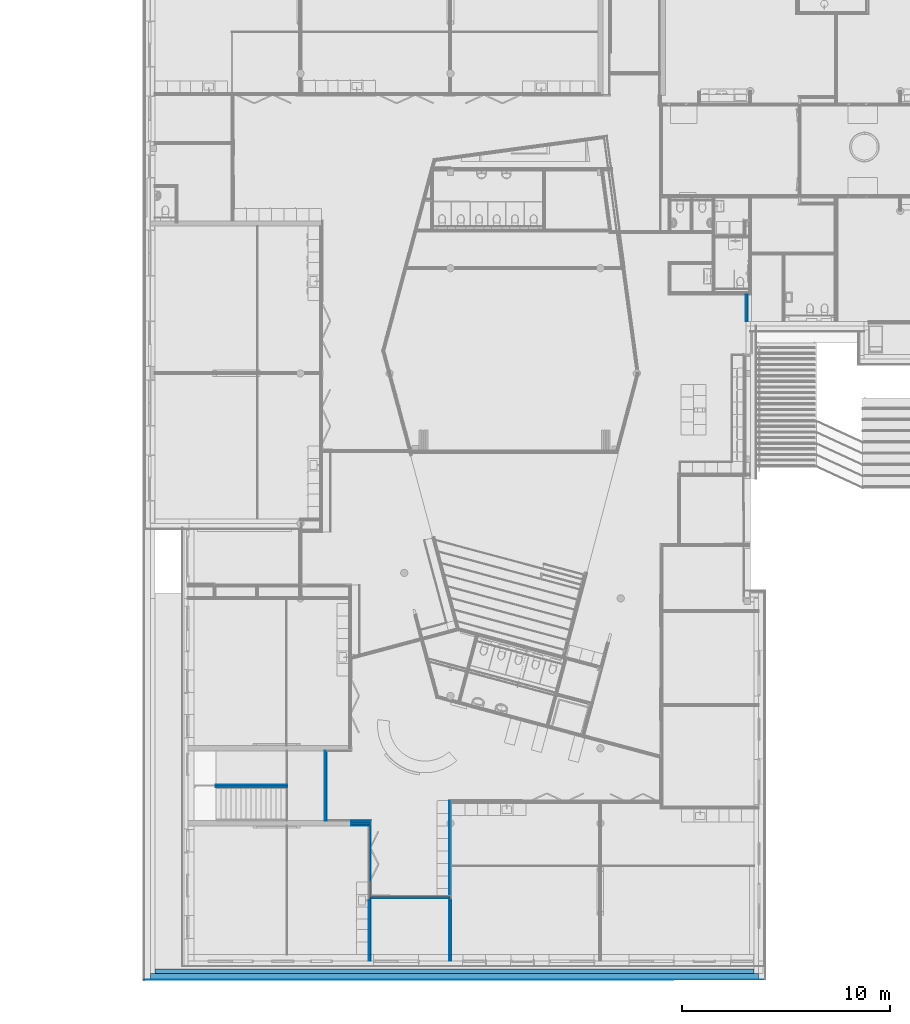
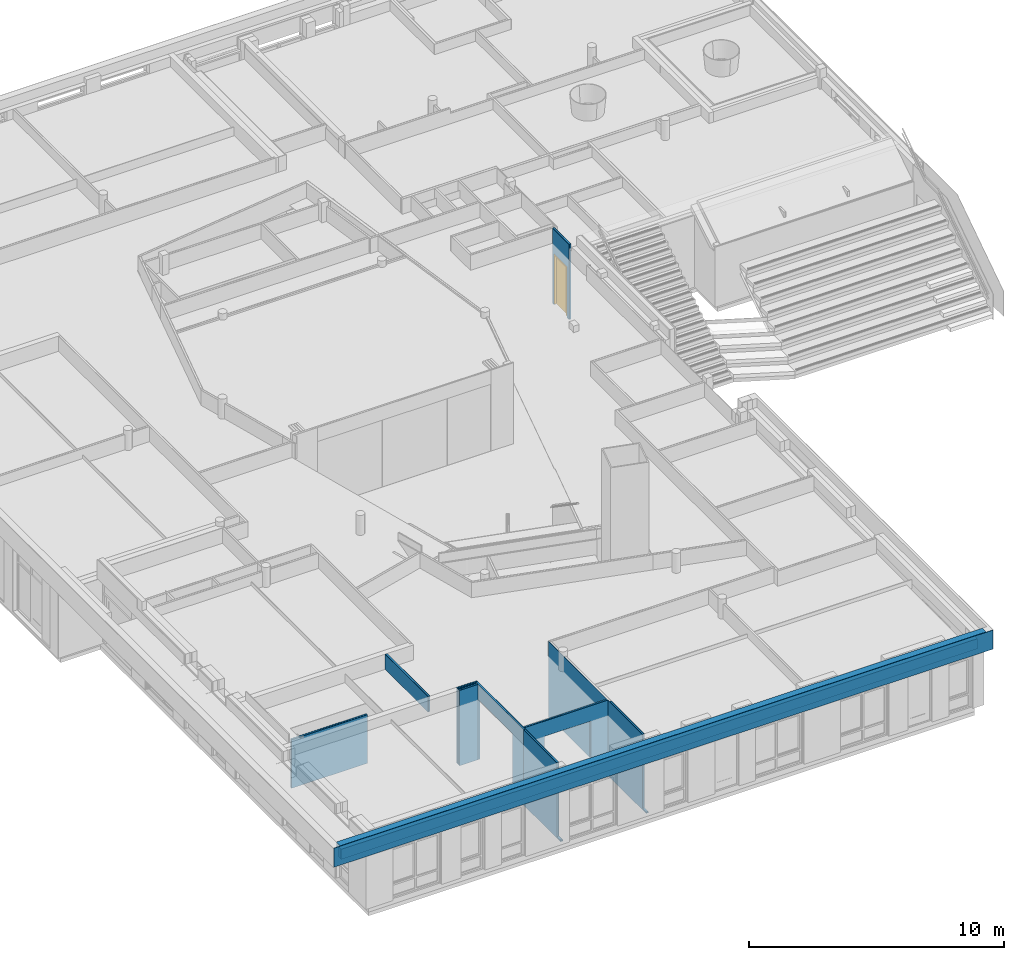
# One storey, part 4 of 167: 29 building element parts, 1 door, 5 openings, 11 elements without a shape of their own.
"""IFC2X3 building model written with IfcOpenShell, lengths in millimetres."""

from ifc_helpers import new_model, entity, si_unit, converted_unit, derived_unit, money_unit, direction, frame, origin_with_axes, place, context, subcontext, project, spatial, faceted_brep, source, transform, mapped, material, type_object, type_shapes, element, fill, aggregate, save


model = new_model("IFC2X3")

# Units and contexts
model_context = context("Model", 3, precision=0.01, world=origin_with_axes(), true_north=direction((0.0, 1.0)))
plan_context = context("Plan", 3, precision=0.01, world=origin_with_axes(), true_north=direction((0.0, 1.0)))
body_context = subcontext(model_context, "Body", "Model", "MODEL_VIEW")
ifc_project = project(units=[si_unit("LENGTHUNIT", "METRE", prefix="MILLI"), si_unit("AREAUNIT", "SQUARE_METRE"), si_unit("VOLUMEUNIT", "CUBIC_METRE"), converted_unit("PLANEANGLEUNIT", "DEGREE", entity("IfcPlaneAngleMeasure", 0.0174532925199), si_unit("PLANEANGLEUNIT", "RADIAN"), dimensions=[0, 0, 0, 0, 0, 0, 0]), si_unit("SOLIDANGLEUNIT", "STERADIAN"), money_unit("EUR"), converted_unit("TIMEUNIT", "Year", entity("IfcTimeMeasure", 31556926.0), si_unit("TIMEUNIT", "SECOND"), dimensions=[0, 0, 1, 0, 0, 0, 0]), si_unit("MASSUNIT", "GRAM", prefix="KILO"), si_unit("THERMODYNAMICTEMPERATUREUNIT", "DEGREE_CELSIUS"), si_unit("LUMINOUSINTENSITYUNIT", "LUMEN"), si_unit("ENERGYUNIT", "JOULE", prefix="MEGA"), derived_unit("THERMALCONDUCTANCEUNIT", [(si_unit("POWERUNIT", "WATT"), 1), (si_unit("LENGTHUNIT", "METRE"), -1), (si_unit("THERMODYNAMICTEMPERATUREUNIT", "KELVIN"), -1)]), derived_unit("SPECIFICHEATCAPACITYUNIT", [(si_unit("ENERGYUNIT", "JOULE"), 1), (si_unit("MASSUNIT", "GRAM", prefix="KILO"), -1), (si_unit("THERMODYNAMICTEMPERATUREUNIT", "KELVIN"), -1)]), derived_unit("MASSDENSITYUNIT", [(si_unit("MASSUNIT", "GRAM", prefix="KILO"), 1), (si_unit("VOLUMEUNIT", "CUBIC_METRE"), -1)])], contexts=[model_context, plan_context])

# Site, building, storey
site_placement = place(None, origin_with_axes())
site = spatial("IfcSite", under=ifc_project, at=site_placement, Name="Site", CompositionType="ELEMENT")
building_placement = place(site_placement, origin_with_axes())
building = spatial("IfcBuilding", under=site, at=building_placement, Name="Naam gebouw", CompositionType="ELEMENT")
storey_placement = place(building_placement, origin_with_axes())
storey = spatial("IfcBuildingStorey", under=building, at=storey_placement, Name="Begane grond", CompositionType="ELEMENT", Elevation=0.0)

# Door
door_style = type_object("IfcDoorStyle", Name="D1 24", ConstructionType="NOTDEFINED", OperationType="SINGLE_SWING_RIGHT", ParameterTakesPrecedence=False, Sizeable=False)
shared_shape = source(origin_with_axes(), body_context, "Body", "Brep", [
    faceted_brep([(-450.0, -40.0, 0.0), (-450.0, -40.0, 2300.0), (-450.0, -114.0, 2300.0), (-450.0, -114.0, 0.0), (-475.0, -40.0, 2300.0), (-475.0, -40.0, 0.0), (-475.0, 0.0, 2300.0), (-517.0, 0.0, 2300.0), (-517.0, -114.0, 2300.0), (-517.0, -114.0, 0.0), (-517.0, 0.0, 0.0), (-475.0, 0.0, 0.0)], [[[0, 1, 2, 3]], [[4, 1, 0, 5]], [[4, 6, 7, 8, 2, 1]], [[3, 2, 8, 9]], [[5, 0, 3, 9, 10, 11]], [[6, 4, 5, 11]], [[6, 11, 10, 7]], [[10, 9, 8, 7]]]),
    faceted_brep([(475.0, -40.0, 2300.0), (450.0, -40.0, 2300.0), (450.0, -114.0, 2300.0), (517.0, -114.0, 2300.0), (517.0, 0.0, 2300.0), (475.0, 0.0, 2300.0), (475.0, -40.0, 0.0), (450.0, -40.0, 0.0), (450.0, -114.0, 0.0), (517.0, -114.0, 0.0), (517.0, 0.0, 0.0), (475.0, 0.0, 0.0)], [[[0, 1, 2, 3, 4, 5]], [[1, 0, 6, 7]], [[1, 7, 8, 2]], [[3, 2, 8, 9]], [[4, 3, 9, 10]], [[11, 5, 4, 10]], [[0, 5, 11, 6]], [[6, 11, 10, 9, 8, 7]]]),
    faceted_brep([(-475.0, 0.0, 2325.0), (-475.0, 0.0, 2300.0), (-517.0, 0.0, 2300.0), (-517.0, 0.0, 2367.0), (517.0, 0.0, 2367.0), (517.0, 0.0, 2300.0), (475.0, 0.0, 2300.0), (475.0, 0.0, 2325.0), (-475.0, -40.0, 2325.0), (-475.0, -40.0, 2300.0), (-450.0, -40.0, 2300.0), (-450.0, -114.0, 2300.0), (-517.0, -114.0, 2300.0), (-517.0, -114.0, 2367.0), (517.0, -114.0, 2367.0), (517.0, -114.0, 2300.0), (475.0, -40.0, 2300.0), (450.0, -114.0, 2300.0), (450.0, -40.0, 2300.0), (475.0, -40.0, 2325.0)], [[[0, 1, 2, 3, 4, 5, 6, 7]], [[1, 0, 8, 9]], [[9, 10, 11, 12, 2, 1]], [[2, 12, 13, 3]], [[3, 13, 14, 4]], [[4, 14, 15, 5]], [[16, 6, 5, 15, 17, 18]], [[7, 6, 16, 19]], [[0, 7, 19, 8]], [[16, 18, 10, 9, 8, 19]], [[10, 18, 17, 11]], [[17, 15, 14, 13, 12, 11]]]),
    faceted_brep([(475.0, 0.0, 0.0), (475.0, -40.0, 0.0), (-475.0, -40.0, 0.0), (-475.0, 0.0, 0.0), (475.0, 0.0, 2325.0), (475.0, -40.0, 2325.0), (-475.0, -40.0, 2325.0), (-475.0, 0.0, 2325.0)], [[[0, 1, 2, 3]], [[4, 5, 1, 0]], [[1, 5, 6, 2]], [[3, 2, 6, 7]], [[0, 3, 7, 4]], [[7, 6, 5, 4]]]),
])
type_shapes(door_style, [shared_shape])
wall_11_placement = place(storey_placement, frame((28636.0, 32636.3528663, -100.0), z_axis=(0.0, 0.0, 1.0), x_axis=(0.0, -1.0, 0.0)))
opening_5_placement = place(wall_11_placement, frame((669.353092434, 0.0, 100.0), z_axis=(0.0, 0.0, 1.0), x_axis=(1.0, 0.0, 0.0)))
door_placement = place(opening_5_placement, frame((-517.0, 0.0, 0.0), z_axis=(0.0, 0.0, 1.0), x_axis=(1.0, 0.0, 0.0)))
door = element("IfcDoor", 1, at=door_placement, inside=storey, type_object=door_style, Name="32_Deur_Hi-01s", ObjectType="DOOR", OverallHeight=2367.0, OverallWidth=1034.0, context=body_context, shape_type="MappedRepresentation", body=[
    mapped(shared_shape, transform((517.0, 64.0, 0.0))),
])

# Wall, building element parts
wall_type_1 = type_object("IfcWallType", Name="_TenW_22_Metalstud 100 enkel gipsvezelplaat 100", PredefinedType="NOTDEFINED")
wall_1_placement = place(storey_placement, frame((14400.0, 600.0, -100.0), z_axis=(0.0, 0.0, 1.0), x_axis=(0.0, 1.0, 0.0)))
wall_1 = element("IfcWall", 2, at=wall_1_placement, inside=storey, type_object=wall_type_1, Name="22_Wand_Wand-x")
ifc_material_1 = material(Name="Gipsplaat watervast")
building_element_part_1_placement = place(wall_1_placement, origin_with_axes())
building_element_part_1 = element("IfcBuildingElementPart", 3, at=building_element_part_1_placement, material=ifc_material_1, Name="Gipsplaat watervast", context=body_context, shape_type="Brep", body=[
    faceted_brep([(0.0, 37.5, 30.0), (3012.5, 37.5, 30.0), (3012.5, 37.5, 3629.99999759), (300.0, 37.5, 3629.99999752), (300.0, 37.5, 100.0), (0.0, 37.5, 100.0), (3012.5, 50.0, 30.0), (0.0, 50.0, 30.0), (3012.5, 50.0, 3629.99999759), (300.0, 50.0, 3629.99999752), (300.0, 50.0, 100.0), (0.0, 50.0, 100.0)], [[[0, 1, 2, 3, 4, 5]], [[6, 1, 0, 7]], [[1, 6, 8, 2]], [[8, 9, 3, 2]], [[4, 3, 9, 10]], [[11, 5, 4, 10]], [[7, 0, 5, 11]], [[6, 7, 11, 10, 9, 8]]]),
])
ifc_material_2 = material(Name="Isolatie - Steenwol zacht")
building_element_part_2_placement = place(wall_1_placement, origin_with_axes())
building_element_part_2 = element("IfcBuildingElementPart", 4, at=building_element_part_2_placement, material=ifc_material_2, Name="Isolatie - Steenwol zacht", context=body_context, shape_type="Brep", body=[
    faceted_brep([(0.0, -37.5, 30.0), (2900.0, -37.5, 30.0), (2900.0, -37.5, 3629.99999752), (300.0, -37.5, 3629.99999752), (300.0, -37.5, 100.0), (0.0, -37.5, 100.0), (2900.0, 37.5, 30.0), (0.0, 37.5, 30.0), (2900.0, 37.5, 3629.99999752), (300.0, 37.5, 3629.99999752), (300.0, 37.5, 100.0), (0.0, 37.5, 100.0)], [[[0, 1, 2, 3, 4, 5]], [[6, 1, 0, 7]], [[1, 6, 8, 2]], [[8, 9, 3, 2]], [[4, 3, 9, 10]], [[11, 5, 4, 10]], [[7, 0, 5, 11]], [[6, 7, 11, 10, 9, 8]]]),
])
building_element_part_3_placement = place(wall_1_placement, origin_with_axes())
building_element_part_3 = element("IfcBuildingElementPart", 5, at=building_element_part_3_placement, material=ifc_material_1, Name="Gipsplaat watervast", context=body_context, shape_type="Brep", body=[
    faceted_brep([(0.0, -50.0, 30.0), (2900.0, -50.0, 30.0), (2900.0, -50.0, 3629.99999752), (300.0, -50.0, 3629.99999752), (300.0, -50.0, 100.0), (0.0, -50.0, 100.0), (2900.0, -37.5, 30.0), (0.0, -37.5, 30.0), (2900.0, -37.5, 3629.99999752), (300.0, -37.5, 3629.99999752), (300.0, -37.5, 100.0), (0.0, -37.5, 100.0)], [[[0, 1, 2, 3, 4, 5]], [[6, 1, 0, 7]], [[1, 6, 8, 2]], [[8, 9, 3, 2]], [[4, 3, 9, 10]], [[11, 5, 4, 10]], [[7, 0, 5, 11]], [[6, 7, 11, 10, 9, 8]]]),
])
aggregate(wall_1, [building_element_part_1, building_element_part_2, building_element_part_3])

wall_2_placement = place(storey_placement, frame((10531.8272344, 600.0, -100.0), z_axis=(0.0, 0.0, 1.0), x_axis=(0.0, 1.0, 0.0)))
wall_2 = element("IfcWall", 6, at=wall_2_placement, inside=storey, type_object=wall_type_1, Name="22_Wand_Wand-x")
building_element_part_4_placement = place(wall_2_placement, origin_with_axes())
building_element_part_4 = element("IfcBuildingElementPart", 7, at=building_element_part_4_placement, material=ifc_material_1, Name="Gipsplaat watervast", context=body_context, shape_type="Brep", body=[
    faceted_brep([(0.0, 37.5, 30.0), (2900.0, 37.5, 30.0), (2900.0, 37.5, 3629.99999709), (300.0, 37.5, 3629.99999709), (300.0, 37.5, 100.0), (0.0, 37.5, 100.0), (2900.0, 50.0, 30.0), (0.0, 50.0, 30.0), (2900.0, 50.0, 3629.99999709), (300.0, 50.0, 3629.99999709), (300.0, 50.0, 100.0), (0.0, 50.0, 100.0)], [[[0, 1, 2, 3, 4, 5]], [[6, 1, 0, 7]], [[1, 6, 8, 2]], [[8, 9, 3, 2]], [[4, 3, 9, 10]], [[11, 5, 4, 10]], [[7, 0, 5, 11]], [[6, 7, 11, 10, 9, 8]]]),
])
building_element_part_5_placement = place(wall_2_placement, origin_with_axes())
building_element_part_5 = element("IfcBuildingElementPart", 8, at=building_element_part_5_placement, material=ifc_material_2, Name="Isolatie - Steenwol zacht", context=body_context, shape_type="Brep", body=[
    faceted_brep([(0.0, -37.5, 30.0), (2900.0, -37.5, 30.0), (2900.0, -37.5, 3629.99999709), (300.0, -37.5, 3629.99999709), (300.0, -37.5, 100.0), (0.0, -37.5, 100.0), (2900.0, 37.5, 30.0), (0.0, 37.5, 30.0), (2900.0, 37.5, 3629.99999709), (300.0, 37.5, 3629.99999709), (300.0, 37.5, 100.0), (0.0, 37.5, 100.0)], [[[0, 1, 2, 3, 4, 5]], [[6, 1, 0, 7]], [[1, 6, 8, 2]], [[8, 9, 3, 2]], [[4, 3, 9, 10]], [[11, 5, 4, 10]], [[7, 0, 5, 11]], [[6, 7, 11, 10, 9, 8]]]),
])
building_element_part_6_placement = place(wall_2_placement, origin_with_axes())
building_element_part_6 = element("IfcBuildingElementPart", 9, at=building_element_part_6_placement, material=ifc_material_1, Name="Gipsplaat watervast", context=body_context, shape_type="Brep", body=[
    faceted_brep([(0.0, -50.0, 30.0), (3012.5, -50.0, 30.0), (3012.5, -50.0, 3629.99999718), (300.0, -50.0, 3629.99999709), (300.0, -50.0, 100.0), (0.0, -50.0, 100.0), (3012.5, -37.5, 30.0), (0.0, -37.5, 30.0), (3012.5, -37.5, 3629.99999718), (300.0, -37.5, 3629.99999709), (300.0, -37.5, 100.0), (0.0, -37.5, 100.0)], [[[0, 1, 2, 3, 4, 5]], [[6, 1, 0, 7]], [[1, 6, 8, 2]], [[8, 9, 3, 2]], [[4, 3, 9, 10]], [[11, 5, 4, 10]], [[7, 0, 5, 11]], [[6, 7, 11, 10, 9, 8]]]),
])
aggregate(wall_2, [building_element_part_4, building_element_part_5, building_element_part_6])

wall_type_2 = type_object("IfcWallType", Name="_TenW_21_E-BOARD_V1_standaard 538", PredefinedType="NOTDEFINED")
wall_3_placement = place(storey_placement, frame((0.0, 0.0, 3050.0), z_axis=(0.0, 0.0, 1.0), x_axis=(1.0, 0.0, 0.0)))
wall_3 = element("IfcWall", 10, at=wall_3_placement, inside=storey, type_object=wall_type_2, Name="21_Wand_Wand-x")
ifc_material_3 = material(Name="Steen - Kalkzandsteen C")
building_element_part_7_placement = place(wall_3_placement, origin_with_axes())
building_element_part_7 = element("IfcBuildingElementPart", 11, at=building_element_part_7_placement, material=ifc_material_3, Name="Steen - Kalkzandsteen C", context=body_context, shape_type="Brep", body=[
    faceted_brep([(214.0, 214.0, 480.0), (28986.0, 214.0, 480.0), (28986.0, 214.0, 0.0), (214.0, 214.0, 0.0), (28986.0, 0.0, 480.0), (214.0, 0.0, 480.0), (28986.0, 0.0, 0.0), (214.0, 0.0, 0.0)], [[[0, 1, 2, 3]], [[4, 1, 0, 5]], [[1, 4, 6, 2]], [[6, 7, 3, 2]], [[5, 0, 3, 7]], [[4, 5, 7, 6]]]),
])
building_element_part_8_placement = place(wall_3_placement, origin_with_axes())
building_element_part_8 = element("IfcBuildingElementPart", 12, at=building_element_part_8_placement, material=ifc_material_2, Name="Isolatie - Steenwol zacht", context=body_context, shape_type="Brep", body=[
    faceted_brep([(29200.0, 0.0, 0.0), (0.0, 0.0, 0.0), (0.0, 0.0, 910.0), (29200.0, 0.0, 910.0), (29200.0, -304.0, 0.0), (0.0, -304.0, 0.0), (0.0, -304.0, 910.0), (29200.0, -304.0, 910.0)], [[[0, 1, 2, 3]], [[4, 5, 1, 0]], [[5, 6, 2, 1]], [[3, 2, 6, 7]], [[4, 0, 3, 7]], [[7, 6, 5, 4]]]),
])
ifc_material_4 = material(Name="_TenW_21_Steen - Baksteen")
building_element_part_9_placement = place(wall_3_placement, origin_with_axes())
building_element_part_9 = element("IfcBuildingElementPart", 13, at=building_element_part_9_placement, material=ifc_material_4, Name="_TenW_21_Steen - Baksteen", context=body_context, shape_type="Brep", body=[
    faceted_brep([(-304.0, -304.0, 0.0), (-304.0, -304.0, 910.0), (29504.0, -304.0, 910.0), (29504.0, -304.0, 0.0), (-304.0, -324.0, 910.0), (-304.0, -324.0, 0.0), (29504.0, -324.0, 910.0), (29504.0, -324.0, 0.0)], [[[0, 1, 2, 3]], [[4, 1, 0, 5]], [[1, 4, 6, 2]], [[3, 2, 6, 7]], [[5, 0, 3, 7]], [[4, 5, 7, 6]]]),
])
aggregate(wall_3, [building_element_part_7, building_element_part_8, building_element_part_9])

# Wall, opening, building element parts
wall_4_placement = place(storey_placement, frame((10531.8272344, 3650.0, -100.0), z_axis=(0.0, 0.0, 1.0), x_axis=(1.0, 0.0, 0.0)))
wall_4 = element("IfcWall", 14, at=wall_4_placement, inside=storey, type_object=wall_type_1, Name="22_Wand_Wand-x")
opening_1_placement = place(wall_4_placement, frame((2000.0, 0.0, 100.0), z_axis=(0.0, 0.0, 1.0), x_axis=(1.0, 0.0, 0.0)))
element("IfcOpeningElement", 15, at=opening_1_placement, cuts=wall_4, Name="32_Deur_Hi-52s", context=body_context, shape_type="Brep", body=[
    faceted_brep([(-1050.0, -100.0, 0.0), (-1050.0, -100.0, 2800.0), (-1050.0, 200.0, 2800.0), (-1050.0, 200.0, 0.0), (1050.0, -100.0, 0.0), (1050.0, -100.0, 2800.0), (1050.0, 200.0, 2800.0), (1050.0, 200.0, 0.0)], [[[0, 1, 2, 3]], [[0, 4, 5, 1]], [[1, 5, 6, 2]], [[3, 2, 6, 7]], [[4, 0, 3, 7]], [[5, 4, 7, 6]]]),
])
building_element_part_10_placement = place(wall_4_placement, origin_with_axes())
building_element_part_10 = element("IfcBuildingElementPart", 16, at=building_element_part_10_placement, material=ifc_material_2, Name="Isolatie - Steenwol zacht", context=body_context, shape_type="Brep", body=[
    faceted_brep([(950.0, 37.5, 2900.0), (950.0, 37.5, 100.0), (950.0, 37.5, 30.0), (37.5, 37.5, 30.0), (37.5, 37.5, 3629.99999674), (3830.67276555, 37.5, 3629.99999674), (3830.67276555, 37.5, 30.0), (3050.0, 37.5, 30.0), (3050.0, 37.5, 100.0), (3050.0, 37.5, 2900.0), (950.0, -37.5, 2900.0), (950.0, -37.5, 100.0), (950.0, -37.5, 30.0), (37.5, -37.5, 30.0), (37.5, -37.5, 3629.99999674), (3830.67276555, -37.5, 3629.99999674), (3830.67276555, -37.5, 30.0), (3050.0, -37.5, 30.0), (3050.0, -37.5, 100.0), (3050.0, -37.5, 2900.0)], [[[0, 1, 2, 3, 4, 5, 6, 7, 8, 9]], [[1, 0, 10, 11]], [[1, 11, 12, 2]], [[12, 13, 3, 2]], [[13, 14, 4, 3]], [[15, 5, 4, 14]], [[6, 5, 15, 16]], [[7, 6, 16, 17]], [[18, 8, 7, 17]], [[9, 8, 18, 19]], [[0, 9, 19, 10]], [[19, 18, 17, 16, 15, 14, 13, 12, 11, 10]]]),
])
building_element_part_11_placement = place(wall_4_placement, origin_with_axes())
building_element_part_11 = element("IfcBuildingElementPart", 17, at=building_element_part_11_placement, material=ifc_material_1, Name="Gipsplaat watervast", context=body_context, shape_type="Brep", body=[
    faceted_brep([(950.0, -37.5, 2900.0), (950.0, -37.5, 100.0), (950.0, -37.5, 30.0), (50.0, -37.5, 30.0), (50.0, -37.5, 3629.99999674), (3818.17276555, -37.5, 3629.99999674), (3818.17276555, -37.5, 30.0), (3050.0, -37.5, 30.0), (3050.0, -37.5, 100.0), (3050.0, -37.5, 2900.0), (950.0, -50.0, 2900.0), (950.0, -50.0, 100.0), (950.0, -50.0, 30.0), (50.0, -50.0, 30.0), (50.0, -50.0, 3629.99999674), (3818.17276555, -50.0, 3629.99999674), (3818.17276555, -50.0, 30.0), (3050.0, -50.0, 30.0), (3050.0, -50.0, 100.0), (3050.0, -50.0, 2900.0)], [[[0, 1, 2, 3, 4, 5, 6, 7, 8, 9]], [[1, 0, 10, 11]], [[1, 11, 12, 2]], [[12, 13, 3, 2]], [[13, 14, 4, 3]], [[15, 5, 4, 14]], [[6, 5, 15, 16]], [[7, 6, 16, 17]], [[18, 8, 7, 17]], [[9, 8, 18, 19]], [[0, 9, 19, 10]], [[19, 18, 17, 16, 15, 14, 13, 12, 11, 10]]]),
])
aggregate(wall_4, [building_element_part_10, building_element_part_11])

wall_5_placement = place(storey_placement, frame((1800.0, 8991.1374755, 2.0), z_axis=(0.0, 0.0, 1.0), x_axis=(1.0, 0.0, 0.0)))
wall_5 = element("IfcWall", 18, at=wall_5_placement, inside=storey, type_object=wall_type_1, Name="22_Wand_Wand-x")
opening_2_placement = place(wall_5_placement, frame((817.0, 0.0, -2.0), z_axis=(0.0, 0.0, 1.0), x_axis=(1.0, 0.0, 0.0)))
element("IfcOpeningElement", 19, at=opening_2_placement, cuts=wall_5, Name="32_Deur_Hi-01s", context=body_context, shape_type="Brep", body=[
    faceted_brep([(517.0, -100.0, 2367.0), (517.0, -100.0, 0.0), (517.0, 200.0, 0.0), (517.0, 200.0, 2367.0), (-517.0, -100.0, 2367.0), (-517.0, -100.0, 0.0), (-517.0, 200.0, 0.0), (-517.0, 200.0, 2367.0)], [[[0, 1, 2, 3]], [[0, 4, 5, 1]], [[1, 5, 6, 2]], [[3, 2, 6, 7]], [[4, 0, 3, 7]], [[5, 4, 7, 6]]]),
])
building_element_part_12_placement = place(wall_5_placement, origin_with_axes())
building_element_part_12 = element("IfcBuildingElementPart", 20, at=building_element_part_12_placement, material=ifc_material_1, Name="Gipsplaat watervast", context=body_context, shape_type="Brep", body=[
    faceted_brep([(1334.0, 50.0, 0.0), (1334.0, 50.0, 2318.0), (4760.33313693, 50.0, 2318.0), (4760.33313693, 50.0, 0.0), (1334.0, 37.5, 2318.0), (1334.0, 37.5, 0.0), (4760.33313693, 37.5, 2318.0), (4760.33313693, 37.5, 0.0)], [[[0, 1, 2, 3]], [[4, 1, 0, 5]], [[1, 4, 6, 2]], [[7, 3, 2, 6]], [[5, 0, 3, 7]], [[4, 5, 7, 6]]]),
])
building_element_part_13_placement = place(wall_5_placement, origin_with_axes())
building_element_part_13 = element("IfcBuildingElementPart", 21, at=building_element_part_13_placement, material=ifc_material_2, Name="Isolatie - Steenwol zacht", context=body_context, shape_type="Brep", body=[
    faceted_brep([(1334.0, 37.5, 0.0), (1334.0, 37.5, 2318.0), (4760.33313693, 37.5, 2318.0), (4760.33313693, 37.5, 0.0), (1334.0, -37.5, 2318.0), (1334.0, -37.5, 0.0), (4760.33313693, -37.5, 2318.0), (4760.33313693, -37.5, 0.0)], [[[0, 1, 2, 3]], [[4, 1, 0, 5]], [[1, 4, 6, 2]], [[7, 3, 2, 6]], [[5, 0, 3, 7]], [[4, 5, 7, 6]]]),
])
building_element_part_14_placement = place(wall_5_placement, origin_with_axes())
building_element_part_14 = element("IfcBuildingElementPart", 22, at=building_element_part_14_placement, material=ifc_material_1, Name="Gipsplaat watervast", context=body_context, shape_type="Brep", body=[
    faceted_brep([(1334.0, -37.5, 0.0), (1334.0, -37.5, 2318.0), (4760.33313693, -37.5, 2318.0), (4760.33313693, -37.5, 0.0), (1334.0, -50.0, 2318.0), (1334.0, -50.0, 0.0), (4760.33313693, -50.0, 2318.0), (4760.33313693, -50.0, 0.0)], [[[0, 1, 2, 3]], [[4, 1, 0, 5]], [[1, 4, 6, 2]], [[7, 3, 2, 6]], [[5, 0, 3, 7]], [[4, 5, 7, 6]]]),
])
aggregate(wall_5, [building_element_part_12, building_element_part_13, building_element_part_14])

wall_6_placement = place(storey_placement, frame((8419.25215922, 7325.0, -100.0), z_axis=(0.0, 0.0, 1.0), x_axis=(0.0, 1.0, 0.0)))
wall_6 = element("IfcWall", 23, at=wall_6_placement, inside=storey, type_object=wall_type_1, Name="22_Wand_Wand-x")
opening_3_placement = place(wall_6_placement, frame((1675.0, 0.0, 100.0), z_axis=(0.0, 0.0, 1.0), x_axis=(1.0, 0.0, 0.0)))
element("IfcOpeningElement", 24, at=opening_3_placement, cuts=wall_6, Name="32_Deur_Hi-44", context=body_context, shape_type="Brep", body=[
    faceted_brep([(1675.0, 100.0, 0.0), (1675.0, 100.0, 2800.0), (1675.0, -200.0, 2800.0), (1675.0, -200.0, 0.0), (-1675.0, 100.0, 0.0), (-1675.0, 100.0, 2800.0), (-1675.0, -200.0, 2800.0), (-1675.0, -200.0, 0.0)], [[[0, 1, 2, 3]], [[0, 4, 5, 1]], [[1, 5, 6, 2]], [[3, 2, 6, 7]], [[4, 0, 3, 7]], [[5, 4, 7, 6]]]),
])
building_element_part_15_placement = place(wall_6_placement, origin_with_axes())
building_element_part_15 = element("IfcBuildingElementPart", 25, at=building_element_part_15_placement, material=ifc_material_1, Name="Gipsplaat watervast", context=body_context, shape_type="Brep", body=[
    faceted_brep([(2.50000004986, 37.4999997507, 100.0), (2.50000004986, 37.4999997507, 2900.0), (3350.0, 37.4999927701, 2900.0), (3350.0, 37.4999909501, 3629.99999709), (0.0, 37.4999909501, 3629.99999709), (0.0, 37.4999997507, 100.0), (2.96645286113e-06, 49.9999851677, 100.0), (2.96645286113e-06, 49.9999851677, 1300.0), (2.96645286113e-06, 49.9999851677, 2900.0), (3350.0, 49.9999851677, 2900.0), (3350.0, 49.9999995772, 3629.99999709), (0.0, 49.9999995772, 3629.99999709)], [[[0, 1, 2, 3, 4, 5]], [[1, 0, 6, 7, 8]], [[9, 2, 1, 8]], [[2, 9, 10, 3]], [[11, 4, 3, 10]], [[7, 6, 5, 4, 11, 8]], [[6, 0, 5]], [[9, 8, 11, 10]]]),
])
building_element_part_16_placement = place(wall_6_placement, origin_with_axes())
building_element_part_16 = element("IfcBuildingElementPart", 26, at=building_element_part_16_placement, material=ifc_material_2, Name="Isolatie - Steenwol zacht", context=body_context, shape_type="Brep", body=[
    faceted_brep([(17.4999999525, -37.4999997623, 100.0), (17.4999999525, -37.4999997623, 2900.0), (3350.0, -37.4999931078, 2900.0), (3350.0, -37.4999913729, 3629.99999709), (0.0, -37.4999913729, 3629.99999709), (0.0, -37.4999997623, 100.0), (2.50000004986, 37.4999997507, 100.0), (2.50000004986, 37.4999997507, 2900.0), (3350.0, 37.4999927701, 2900.0), (3350.0, 37.4999909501, 3629.99999709), (0.0, 37.4999909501, 3629.99999709), (0.0, 37.4999997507, 100.0)], [[[0, 1, 2, 3, 4, 5]], [[1, 0, 6, 7]], [[8, 2, 1, 7]], [[2, 8, 9, 3]], [[10, 4, 3, 9]], [[10, 11, 5, 4]], [[6, 0, 5, 11]], [[7, 6, 11, 10, 9, 8]]]),
])
building_element_part_17_placement = place(wall_6_placement, origin_with_axes())
building_element_part_17 = element("IfcBuildingElementPart", 27, at=building_element_part_17_placement, material=ifc_material_1, Name="Gipsplaat watervast", context=body_context, shape_type="Brep", body=[
    faceted_brep([(20.0, -50.0, 1300.0), (20.0, -50.0, 2900.0), (3350.0, -50.0, 2900.0), (3350.0, -50.0, 3629.99999709), (0.0, -50.0, 3629.99999709), (0.0, -50.0, 1300.0), (17.499998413, -37.4999920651, 1300.0), (17.4999982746, -37.4999913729, 2900.0), (3350.0, -37.4999931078, 2900.0), (3350.0, -37.4999913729, 3629.99999709), (0.0, -37.4999913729, 3629.99999709), (0.0, -37.4999969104, 1300.0)], [[[0, 1, 2, 3, 4, 5]], [[1, 0, 6, 7]], [[8, 2, 1, 7]], [[2, 8, 9, 3]], [[9, 10, 4, 3]], [[4, 10, 11, 5]], [[6, 0, 5, 11]], [[7, 6, 11, 10, 9, 8]]]),
])
aggregate(wall_6, [building_element_part_15, building_element_part_16, building_element_part_17])

# Wall, building element parts
wall_7_placement = place(storey_placement, frame((9650.0, 7125.0, -100.0), z_axis=(0.0, 0.0, 1.0), x_axis=(1.0, 0.0, 0.0)))
wall_7 = element("IfcWall", 28, at=wall_7_placement, inside=storey, type_object=wall_type_1, Name="22_Wand_Wand-x")
building_element_part_18_placement = place(wall_7_placement, origin_with_axes())
building_element_part_18 = element("IfcBuildingElementPart", 29, at=building_element_part_18_placement, material=ifc_material_1, Name="Gipsplaat watervast", context=body_context, shape_type="Brep", body=[
    faceted_brep([(831.827234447, 37.5, 30.0), (831.827234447, 50.0, 30.0), (831.827234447, 50.0, 3629.99999709), (831.827234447, 37.5, 3629.99999709), (0.0, 50.0, 30.0), (0.0, 37.5, 30.0), (0.0, 50.0, 3629.99999709), (0.0, 37.5, 3629.99999709)], [[[0, 1, 2, 3]], [[4, 1, 0, 5]], [[1, 4, 6, 2]], [[3, 2, 6, 7]], [[5, 0, 3, 7]], [[4, 5, 7, 6]]]),
])
building_element_part_19_placement = place(wall_7_placement, origin_with_axes())
building_element_part_19 = element("IfcBuildingElementPart", 30, at=building_element_part_19_placement, material=ifc_material_2, Name="Isolatie - Steenwol zacht", context=body_context, shape_type="Brep", body=[
    faceted_brep([(844.327234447, -37.5, 30.0), (844.327234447, 37.5, 30.0), (844.327234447, 37.5, 3629.99999709), (844.327234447, -37.5, 3629.99999709), (0.0, 37.5, 30.0), (0.0, -37.5, 30.0), (0.0, 37.5, 3629.99999709), (0.0, -37.5, 3629.99999709)], [[[0, 1, 2, 3]], [[4, 1, 0, 5]], [[1, 4, 6, 2]], [[3, 2, 6, 7]], [[5, 0, 3, 7]], [[4, 5, 7, 6]]]),
])
building_element_part_20_placement = place(wall_7_placement, origin_with_axes())
building_element_part_20 = element("IfcBuildingElementPart", 31, at=building_element_part_20_placement, material=ifc_material_1, Name="Gipsplaat watervast", context=body_context, shape_type="Brep", body=[
    faceted_brep([(831.827234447, -50.0, 30.0), (831.827234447, -37.5, 30.0), (831.827234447, -37.5, 3629.99999709), (831.827234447, -50.0, 3629.99999709), (0.0, -37.5, 30.0), (0.0, -50.0, 30.0), (0.0, -37.5, 3629.99999709), (0.0, -50.0, 3629.99999709)], [[[0, 1, 2, 3]], [[4, 1, 0, 5]], [[1, 4, 6, 2]], [[3, 2, 6, 7]], [[5, 0, 3, 7]], [[4, 5, 7, 6]]]),
])
aggregate(wall_7, [building_element_part_18, building_element_part_19, building_element_part_20])

wall_8_placement = place(storey_placement, frame((9650.0, 7275.0, -100.0), z_axis=(0.0, 0.0, 1.0), x_axis=(1.0, 0.0, 0.0)))
wall_8 = element("IfcWall", 32, at=wall_8_placement, inside=storey, type_object=wall_type_1, Name="22_Wand_Wand-x")
building_element_part_21_placement = place(wall_8_placement, origin_with_axes())
building_element_part_21 = element("IfcBuildingElementPart", 33, at=building_element_part_21_placement, material=ifc_material_1, Name="Gipsplaat watervast", context=body_context, shape_type="Brep", body=[
    faceted_brep([(931.827234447, 37.5, 30.0), (931.827234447, 50.0, 30.0), (931.827234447, 50.0, 3629.99999709), (931.827234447, 37.5, 3629.99999709), (0.0, 50.0, 30.0), (0.0, 37.5, 30.0), (0.0, 50.0, 3629.99999709), (0.0, 37.5, 3629.99999709)], [[[0, 1, 2, 3]], [[4, 1, 0, 5]], [[1, 4, 6, 2]], [[3, 2, 6, 7]], [[5, 0, 3, 7]], [[4, 5, 7, 6]]]),
])
building_element_part_22_placement = place(wall_8_placement, origin_with_axes())
building_element_part_22 = element("IfcBuildingElementPart", 34, at=building_element_part_22_placement, material=ifc_material_2, Name="Isolatie - Steenwol zacht", context=body_context, shape_type="Brep", body=[
    faceted_brep([(919.327234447, -37.5, 30.0), (919.327234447, 37.5, 30.0), (919.327234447, 37.5, 3629.99999709), (919.327234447, -37.5, 3629.99999709), (0.0, 37.5, 30.0), (0.0, -37.5, 30.0), (0.0, 37.5, 3629.99999709), (0.0, -37.5, 3629.99999709)], [[[0, 1, 2, 3]], [[4, 1, 0, 5]], [[1, 4, 6, 2]], [[3, 2, 6, 7]], [[5, 0, 3, 7]], [[4, 5, 7, 6]]]),
])
building_element_part_23_placement = place(wall_8_placement, origin_with_axes())
building_element_part_23 = element("IfcBuildingElementPart", 35, at=building_element_part_23_placement, material=ifc_material_1, Name="Gipsplaat watervast", context=body_context, shape_type="Brep", body=[
    faceted_brep([(844.327234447, -50.0, 30.0), (844.327234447, -37.5, 30.0), (844.327234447, -37.5, 3629.99999709), (844.327234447, -50.0, 3629.99999709), (0.0, -37.5, 30.0), (0.0, -50.0, 30.0), (0.0, -37.5, 3629.99999709), (0.0, -50.0, 3629.99999709)], [[[0, 1, 2, 3]], [[4, 1, 0, 5]], [[1, 4, 6, 2]], [[3, 2, 6, 7]], [[5, 0, 3, 7]], [[4, 5, 7, 6]]]),
])
aggregate(wall_8, [building_element_part_21, building_element_part_22, building_element_part_23])

# Wall, opening, building element parts
wall_9_placement = place(storey_placement, frame((10531.8272344, 3650.0, -100.0), z_axis=(0.0, 0.0, 1.0), x_axis=(0.0, 1.0, 0.0)))
wall_9 = element("IfcWall", 36, at=wall_9_placement, inside=storey, type_object=wall_type_1, Name="22_Wand_Wand-x")
opening_4_placement = place(wall_9_placement, frame((2075.0, 0.0, 100.0), z_axis=(0.0, 0.0, 1.0), x_axis=(1.0, 0.0, 0.0)))
element("IfcOpeningElement", 37, at=opening_4_placement, cuts=wall_9, Name="32_Deur_Si-03", context=body_context, shape_type="Brep", body=[
    faceted_brep([(1350.0, -200.0, 2800.0), (1350.0, -200.0, 0.0), (1350.0, 100.0, 0.0), (1350.0, 100.0, 2800.0), (-1350.0, -200.0, 2800.0), (-1350.0, -200.0, 0.0), (-1350.0, 100.0, 0.0), (-1350.0, 100.0, 2800.0)], [[[0, 1, 2, 3]], [[0, 4, 5, 1]], [[1, 5, 6, 2]], [[3, 2, 6, 7]], [[4, 0, 3, 7]], [[5, 4, 7, 6]]]),
])
building_element_part_24_placement = place(wall_9_placement, origin_with_axes())
building_element_part_24 = element("IfcBuildingElementPart", 38, at=building_element_part_24_placement, material=ifc_material_2, Name="Isolatie - Steenwol zacht", context=body_context, shape_type="Brep", body=[
    faceted_brep([(725.0, -37.5, 100.0), (725.0, -37.5, 2900.0), (3425.0, -37.5, 2900.0), (3425.0, -37.5, 100.0), (3425.0, -37.5, 30.0), (3587.5, -37.5, 30.0), (3587.5, -37.5, 3629.99999709), (-150.0, -37.5, 3629.99999709), (-150.0, -37.5, 30.0), (725.0, -37.5, 30.0), (725.0, 37.5, 100.0), (725.0, 37.5, 2900.0), (3425.0, 37.5, 2900.0), (3425.0, 37.5, 100.0), (3425.0, 37.5, 30.0), (3587.5, 37.5, 30.0), (3587.5, 37.5, 3629.99999709), (-150.0, 37.5, 3629.99999709), (-150.0, 37.5, 30.0), (725.0, 37.5, 30.0)], [[[0, 1, 2, 3, 4, 5, 6, 7, 8, 9]], [[1, 0, 10, 11]], [[2, 1, 11, 12]], [[3, 2, 12, 13]], [[3, 13, 14, 4]], [[14, 15, 5, 4]], [[15, 16, 6, 5]], [[17, 7, 6, 16]], [[8, 7, 17, 18]], [[9, 8, 18, 19]], [[10, 0, 9, 19]], [[11, 10, 19, 18, 17, 16, 15, 14, 13, 12]]]),
])
building_element_part_25_placement = place(wall_9_placement, origin_with_axes())
building_element_part_25 = element("IfcBuildingElementPart", 39, at=building_element_part_25_placement, material=ifc_material_1, Name="Gipsplaat watervast", context=body_context, shape_type="Brep", body=[
    faceted_brep([(725.0, -50.0, 100.0), (725.0, -50.0, 2900.0), (3425.0, -50.0, 2900.0), (3425.0, -50.0, 100.0), (3425.0, -50.0, 30.0), (3662.5, -50.0, 30.0), (3662.5, -50.0, 3629.99999709), (50.0, -50.0, 3629.99999674), (50.0, -50.0, 30.0), (725.0, -50.0, 30.0), (725.0, -37.5, 100.0), (725.0, -37.5, 2900.0), (3425.0, -37.5, 2900.0), (3425.0, -37.5, 100.0), (3425.0, -37.5, 30.0), (3662.5, -37.5, 30.0), (3662.5, -37.5, 3629.99999709), (50.0, -37.5, 3629.99999674), (50.0, -37.5, 30.0), (725.0, -37.5, 30.0)], [[[0, 1, 2, 3, 4, 5, 6, 7, 8, 9]], [[1, 0, 10, 11]], [[2, 1, 11, 12]], [[3, 2, 12, 13]], [[3, 13, 14, 4]], [[14, 15, 5, 4]], [[15, 16, 6, 5]], [[17, 7, 6, 16]], [[8, 7, 17, 18]], [[9, 8, 18, 19]], [[10, 0, 9, 19]], [[11, 10, 19, 18, 17, 16, 15, 14, 13, 12]]]),
])
aggregate(wall_9, [building_element_part_24, building_element_part_25])

# Wall, building element part
wall_10_placement = place(storey_placement, frame((14400.0, 3650.0, -100.0), z_axis=(0.0, 0.0, 1.0), x_axis=(0.0, 1.0, 0.0)))
wall_10 = element("IfcWall", 40, at=wall_10_placement, inside=storey, type_object=wall_type_1, Name="22_Wand_Wand-x")
building_element_part_26_placement = place(wall_10_placement, origin_with_axes())
building_element_part_26 = element("IfcBuildingElementPart", 41, at=building_element_part_26_placement, material=ifc_material_1, Name="Gipsplaat watervast", context=body_context, shape_type="Brep", body=[
    faceted_brep([(50.0, 37.5, 30.0), (4610.84783859, 37.5, 30.0), (4610.84783859, 37.5, 3629.99999752), (50.0, 37.5, 3629.99999674), (4610.84783859, 50.0, 30.0), (50.0, 50.0, 30.0), (4610.84783859, 50.0, 3629.99999752), (50.0, 50.0, 3629.99999674)], [[[0, 1, 2, 3]], [[4, 1, 0, 5]], [[1, 4, 6, 2]], [[6, 7, 3, 2]], [[5, 0, 3, 7]], [[4, 5, 7, 6]]]),
])
aggregate(wall_10, [building_element_part_26])

# Wall, opening
wall_11 = element("IfcWall", 42, at=wall_11_placement, inside=storey, type_object=wall_type_1, Name="22_Wand_Wand-x")
opening_5 = element("IfcOpeningElement", 43, at=opening_5_placement, cuts=wall_11, Name="32_Deur_Hi-01s", context=body_context, shape_type="Brep", body=[
    faceted_brep([(517.0, 100.0, 0.0), (517.0, 100.0, 2367.0), (517.0, -200.0, 2367.0), (517.0, -200.0, 0.0), (-517.0, 100.0, 0.0), (-517.0, 100.0, 2367.0), (-517.0, -200.0, 2367.0), (-517.0, -200.0, 0.0)], [[[0, 1, 2, 3]], [[0, 4, 5, 1]], [[1, 5, 6, 2]], [[3, 2, 6, 7]], [[4, 0, 3, 7]], [[5, 4, 7, 6]]]),
])

fill(opening_5, door)

# Building element part
building_element_part_27_placement = place(wall_11_placement, origin_with_axes())
building_element_part_27 = element("IfcBuildingElementPart", 44, at=building_element_part_27_placement, material=ifc_material_1, Name="Gipsplaat watervast", context=body_context, shape_type="Brep", body=[
    faceted_brep([(1186.35309243, 50.0, 100.0), (1186.35309243, 50.0, 2467.0), (152.353092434, 50.0, 2467.0), (152.353092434, 50.0, 100.0), (152.353092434, 50.0, 30.0), (50.0, 50.0, 30.0), (50.0, 50.0, 3630.0), (1336.35309243, 50.0, 3630.0), (1336.35309243, 50.0, 30.0), (1186.35309243, 50.0, 30.0), (1186.35309243, 37.5, 100.0), (1186.35309243, 37.5, 2467.0), (152.353092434, 37.5, 2467.0), (152.353092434, 37.5, 100.0), (152.353092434, 37.5, 30.0), (50.0, 37.5, 30.0), (50.0, 37.5, 3630.0), (1336.35309243, 37.5, 3630.0), (1336.35309243, 37.5, 30.0), (1186.35309243, 37.5, 30.0)], [[[0, 1, 2, 3, 4, 5, 6, 7, 8, 9]], [[1, 0, 10, 11]], [[2, 1, 11, 12]], [[3, 2, 12, 13]], [[3, 13, 14, 4]], [[14, 15, 5, 4]], [[15, 16, 6, 5]], [[17, 7, 6, 16]], [[8, 7, 17, 18]], [[9, 8, 18, 19]], [[10, 0, 9, 19]], [[11, 10, 19, 18, 17, 16, 15, 14, 13, 12]]]),
])

building_element_part_28_placement = place(wall_11_placement, origin_with_axes())
building_element_part_28 = element("IfcBuildingElementPart", 45, at=building_element_part_28_placement, material=ifc_material_2, Name="Isolatie - Steenwol zacht", context=body_context, shape_type="Brep", body=[
    faceted_brep([(1186.35309243, 37.5, 100.0), (1186.35309243, 37.5, 2467.0), (152.353092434, 37.5, 2467.0), (152.353092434, 37.5, 100.0), (152.353092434, 37.5, 30.0), (37.5, 37.5, 30.0), (37.5, 37.5, 3630.0), (1336.35309243, 37.5, 3630.0), (1336.35309243, 37.5, 30.0), (1186.35309243, 37.5, 30.0), (1186.35309243, -37.5, 100.0), (1186.35309243, -37.5, 2467.0), (152.353092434, -37.5, 2467.0), (152.353092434, -37.5, 100.0), (152.353092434, -37.5, 30.0), (37.5, -37.5, 30.0), (37.5, -37.5, 3630.0), (1336.35309243, -37.5, 3630.0), (1336.35309243, -37.5, 30.0), (1186.35309243, -37.5, 30.0)], [[[0, 1, 2, 3, 4, 5, 6, 7, 8, 9]], [[1, 0, 10, 11]], [[2, 1, 11, 12]], [[3, 2, 12, 13]], [[3, 13, 14, 4]], [[14, 15, 5, 4]], [[15, 16, 6, 5]], [[17, 7, 6, 16]], [[8, 7, 17, 18]], [[9, 8, 18, 19]], [[10, 0, 9, 19]], [[11, 10, 19, 18, 17, 16, 15, 14, 13, 12]]]),
])

building_element_part_29_placement = place(wall_11_placement, origin_with_axes())
building_element_part_29 = element("IfcBuildingElementPart", 46, at=building_element_part_29_placement, material=ifc_material_1, Name="Gipsplaat watervast", context=body_context, shape_type="Brep", body=[
    faceted_brep([(1186.35309243, -37.5, 100.0), (1186.35309243, -37.5, 2467.0), (152.353092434, -37.5, 2467.0), (152.353092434, -37.5, 100.0), (152.353092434, -37.5, 30.0), (50.0, -37.5, 30.0), (50.0, -37.5, 3630.0), (1336.35309243, -37.5, 3630.0), (1336.35309243, -37.5, 30.0), (1186.35309243, -37.5, 30.0), (1186.35309243, -50.0, 100.0), (1186.35309243, -50.0, 2467.0), (152.353092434, -50.0, 2467.0), (152.353092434, -50.0, 100.0), (152.353092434, -50.0, 30.0), (50.0, -50.0, 30.0), (50.0, -50.0, 3630.0), (1336.35309243, -50.0, 3630.0), (1336.35309243, -50.0, 30.0), (1186.35309243, -50.0, 30.0)], [[[0, 1, 2, 3, 4, 5, 6, 7, 8, 9]], [[1, 0, 10, 11]], [[2, 1, 11, 12]], [[3, 2, 12, 13]], [[3, 13, 14, 4]], [[14, 15, 5, 4]], [[15, 16, 6, 5]], [[17, 7, 6, 16]], [[8, 7, 17, 18]], [[9, 8, 18, 19]], [[10, 0, 9, 19]], [[11, 10, 19, 18, 17, 16, 15, 14, 13, 12]]]),
])

aggregate(wall_11, [building_element_part_27, building_element_part_28, building_element_part_29])

save(model, "model.ifc")
